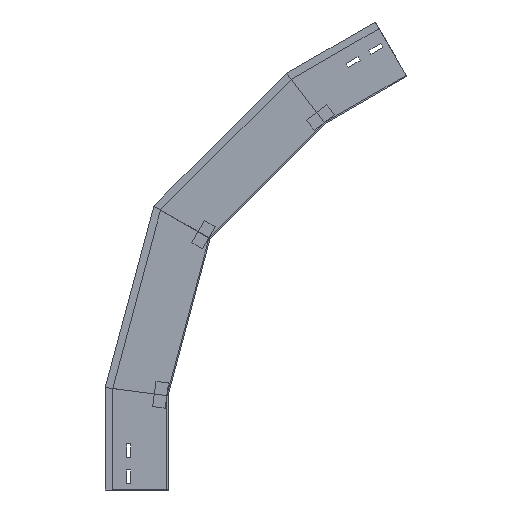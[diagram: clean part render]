
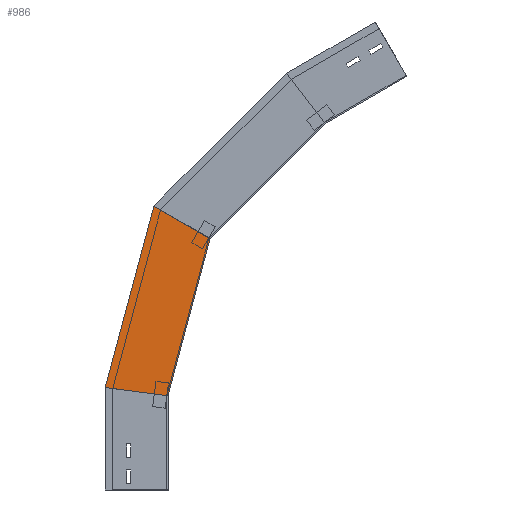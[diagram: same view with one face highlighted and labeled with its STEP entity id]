
A CAD part, left-side view. The second image highlights one B-rep face of the part: STEP entity #986.
In plain terms, the highlighted planar face has unit normal (-1, 0, 0) as drawn and (1, 0, 0) by its records, which use the part's own axes.
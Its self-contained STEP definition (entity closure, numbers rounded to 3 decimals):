
#12 = LINE ( 'NONE', #531, #296 ) ;
#17 = DIRECTION ( 'NONE',  ( 0., -0.866, -0.5 ) ) ;
#43 = ORIENTED_EDGE ( 'NONE', *, *, #1081, .T. ) ;
#99 = DIRECTION ( 'NONE',  ( 1., 0., 0. ) ) ;
#106 = ORIENTED_EDGE ( 'NONE', *, *, #601, .T. ) ;
#141 = CARTESIAN_POINT ( 'NONE',  ( 0., 24.589, 449.973 ) ) ;
#199 = VERTEX_POINT ( 'NONE', #991 ) ;
#230 = PLANE ( 'NONE',  #392 ) ;
#271 = DIRECTION ( 'NONE',  ( 0., -0.707, 0.707 ) ) ;
#290 = VERTEX_POINT ( 'NONE', #1530 ) ;
#296 = VECTOR ( 'NONE', #1046, 1000. ) ;
#319 = CARTESIAN_POINT ( 'NONE',  ( 0., -67.034, 400.175 ) ) ;
#373 = FACE_OUTER_BOUND ( 'NONE', #624, .T. ) ;
#380 = CARTESIAN_POINT ( 'NONE',  ( 0., -250.175, 583.315 ) ) ;
#392 = AXIS2_PLACEMENT_3D ( 'NONE', #877, #99, #615 ) ;
#444 = VERTEX_POINT ( 'NONE', #380 ) ;
#531 = CARTESIAN_POINT ( 'NONE',  ( 0., -273.105, 553.433 ) ) ;
#537 = DIRECTION ( 'NONE',  ( 0., -0.707, 0.707 ) ) ;
#541 = VERTEX_POINT ( 'NONE', #319 ) ;
#601 = EDGE_CURVE ( 'NONE', #199, #290, #905, .T. ) ;
#615 = DIRECTION ( 'NONE',  ( 0., 0., -1. ) ) ;
#624 = EDGE_LOOP ( 'NONE', ( #106, #43, #1326, #1614 ) ) ;
#639 = LINE ( 'NONE', #1177, #1246 ) ;
#877 = CARTESIAN_POINT ( 'NONE',  ( 0., -46.122, 379.263 ) ) ;
#905 = LINE ( 'NONE', #141, #1506 ) ;
#906 = CARTESIAN_POINT ( 'NONE',  ( 0., -46.122, 379.263 ) ) ;
#986 = ADVANCED_FACE ( 'NONE', ( #373 ), #230, .T. ) ;
#991 = CARTESIAN_POINT ( 'NONE',  ( 0., 22.623, 451.939 ) ) ;
#1022 = VECTOR ( 'NONE', #271, 1000. ) ;
#1043 = LINE ( 'NONE', #906, #1022 ) ;
#1046 = DIRECTION ( 'NONE',  ( 0., -0.609, -0.793 ) ) ;
#1081 = EDGE_CURVE ( 'NONE', #290, #444, #12, .T. ) ;
#1177 = CARTESIAN_POINT ( 'NONE',  ( 0., -128.356, 364.771 ) ) ;
#1246 = VECTOR ( 'NONE', #17, 1000. ) ;
#1326 = ORIENTED_EDGE ( 'NONE', *, *, #1673, .F. ) ;
#1506 = VECTOR ( 'NONE', #537, 1000. ) ;
#1530 = CARTESIAN_POINT ( 'NONE',  ( 0., -188.773, 663.335 ) ) ;
#1614 = ORIENTED_EDGE ( 'NONE', *, *, #1692, .F. ) ;
#1673 = EDGE_CURVE ( 'NONE', #541, #444, #1043, .T. ) ;
#1692 = EDGE_CURVE ( 'NONE', #199, #541, #639, .T. ) ;
